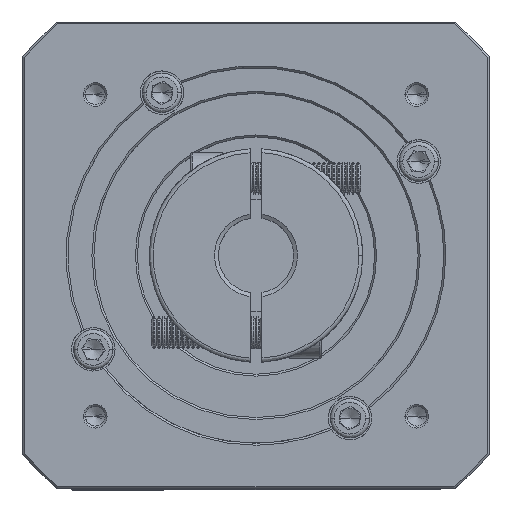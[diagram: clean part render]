
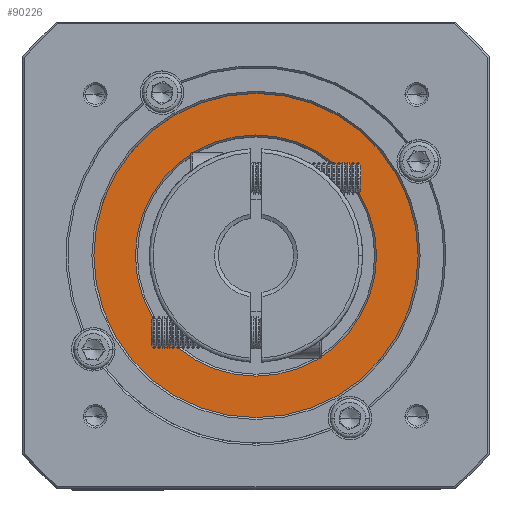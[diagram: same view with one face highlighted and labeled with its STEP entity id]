
A CAD part, top view. The second image highlights one B-rep face of the part: STEP entity #90226.
In plain terms, the highlighted planar face has unit normal (0, 0, 1).
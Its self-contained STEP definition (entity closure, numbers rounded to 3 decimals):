
#6 = ORIENTED_EDGE ( 'NONE', *, *, #91793, .T. ) ;
#1584 = CARTESIAN_POINT ( 'NONE',  ( -58.195, 11.107, 122.5 ) ) ;
#9503 = CARTESIAN_POINT ( 'NONE',  ( -17.195, 11.107, 122.5 ) ) ;
#18283 = CARTESIAN_POINT ( 'NONE',  ( -58.195, 11.107, 122.5 ) ) ;
#19294 = DIRECTION ( 'NONE',  ( 1., 0., 0. ) ) ;
#21091 = ORIENTED_EDGE ( 'NONE', *, *, #44682, .T. ) ;
#21375 = DIRECTION ( 'NONE',  ( 1., 0., 0. ) ) ;
#21737 = CARTESIAN_POINT ( 'NONE',  ( -58.195, 11.107, 122.5 ) ) ;
#23889 = AXIS2_PLACEMENT_3D ( 'NONE', #1584, #103600, #19294 ) ;
#26366 = CIRCLE ( 'NONE', #74432, 30.5 ) ;
#26681 = EDGE_LOOP ( 'NONE', ( #74471, #96425 ) ) ;
#29923 = CIRCLE ( 'NONE', #100846, 30.5 ) ;
#30469 = EDGE_LOOP ( 'NONE', ( #6, #21091 ) ) ;
#33022 = VERTEX_POINT ( 'NONE', #61649 ) ;
#33049 = EDGE_CURVE ( 'NONE', #66883, #77281, #59165, .T. ) ;
#33577 = CARTESIAN_POINT ( 'NONE',  ( -58.195, 11.107, 122.5 ) ) ;
#35804 = AXIS2_PLACEMENT_3D ( 'NONE', #18283, #87415, #94062 ) ;
#37369 = CARTESIAN_POINT ( 'NONE',  ( -27.695, 11.107, 122.5 ) ) ;
#39449 = CIRCLE ( 'NONE', #35804, 41. ) ;
#40448 = FACE_OUTER_BOUND ( 'NONE', #26681, .T. ) ;
#42067 = DIRECTION ( 'NONE',  ( 1., 0., 0. ) ) ;
#44682 = EDGE_CURVE ( 'NONE', #33022, #63681, #29923, .T. ) ;
#46825 = DIRECTION ( 'NONE',  ( 0., 0., 1. ) ) ;
#59165 = CIRCLE ( 'NONE', #66906, 41. ) ;
#61649 = CARTESIAN_POINT ( 'NONE',  ( -88.695, 11.107, 122.5 ) ) ;
#63681 = VERTEX_POINT ( 'NONE', #37369 ) ;
#65824 = CARTESIAN_POINT ( 'NONE',  ( -99.195, 11.107, 122.5 ) ) ;
#66883 = VERTEX_POINT ( 'NONE', #9503 ) ;
#66906 = AXIS2_PLACEMENT_3D ( 'NONE', #21737, #46825, #21375 ) ;
#74432 = AXIS2_PLACEMENT_3D ( 'NONE', #105790, #97991, #81028 ) ;
#74471 = ORIENTED_EDGE ( 'NONE', *, *, #33049, .T. ) ;
#77281 = VERTEX_POINT ( 'NONE', #65824 ) ;
#81028 = DIRECTION ( 'NONE',  ( 1., 0., 0. ) ) ;
#87415 = DIRECTION ( 'NONE',  ( 0., 0., 1. ) ) ;
#90226 = ADVANCED_FACE ( 'NONE', ( #40448, #92132 ), #104290, .T. ) ;
#91793 = EDGE_CURVE ( 'NONE', #63681, #33022, #26366, .T. ) ;
#92132 = FACE_BOUND ( 'NONE', #30469, .T. ) ;
#92769 = DIRECTION ( 'NONE',  ( 0., 0., -1. ) ) ;
#94062 = DIRECTION ( 'NONE',  ( 1., 0., 0. ) ) ;
#96425 = ORIENTED_EDGE ( 'NONE', *, *, #108725, .T. ) ;
#97991 = DIRECTION ( 'NONE',  ( 0., 0., -1. ) ) ;
#100846 = AXIS2_PLACEMENT_3D ( 'NONE', #33577, #92769, #42067 ) ;
#103600 = DIRECTION ( 'NONE',  ( 0., 0., 1. ) ) ;
#104290 = PLANE ( 'NONE',  #23889 ) ;
#105790 = CARTESIAN_POINT ( 'NONE',  ( -58.195, 11.107, 122.5 ) ) ;
#108725 = EDGE_CURVE ( 'NONE', #77281, #66883, #39449, .T. ) ;
